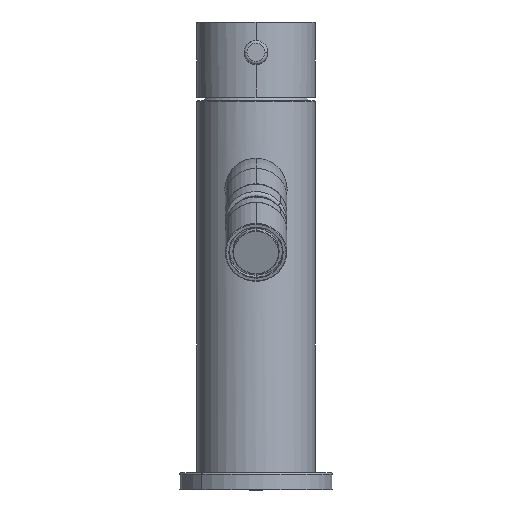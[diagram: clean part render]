
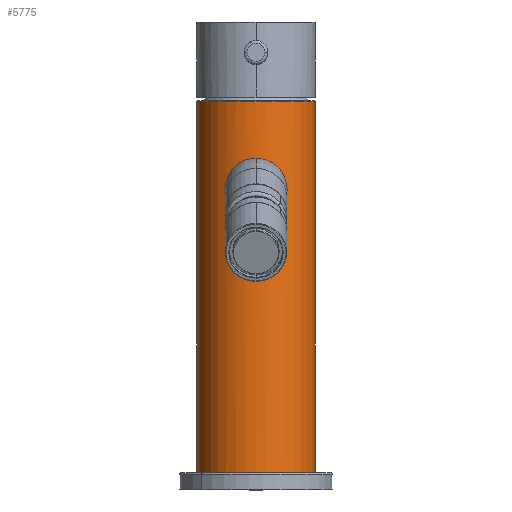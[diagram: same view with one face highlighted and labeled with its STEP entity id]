
A CAD part, top view. The second image highlights one B-rep face of the part: STEP entity #5775.
In plain terms, the highlighted cylindrical face has radius 17.35 mm (diameter 34.7 mm), a partial arc.
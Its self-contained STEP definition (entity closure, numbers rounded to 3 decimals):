
#925=CARTESIAN_POINT('',(0.,113.7,0.));
#926=DIRECTION('',(0.,-1.,0.));
#927=DIRECTION('',(1.,0.,0.));
#928=AXIS2_PLACEMENT_3D('',#925,#926,#927);
#930=CARTESIAN_POINT('',(0.,4.3,0.));
#931=DIRECTION('',(0.,-1.,0.));
#932=DIRECTION('',(1.,0.,0.));
#933=AXIS2_PLACEMENT_3D('',#930,#931,#932);
#935=CARTESIAN_POINT('',(0.,97.1,17.35));
#936=CARTESIAN_POINT('',(0.285,97.1,17.35));
#937=CARTESIAN_POINT('',(0.854,97.073,17.336));
#938=CARTESIAN_POINT('',(1.707,96.952,17.273));
#939=CARTESIAN_POINT('',(2.555,96.749,17.168));
#940=CARTESIAN_POINT('',(3.39,96.461,17.023));
#941=CARTESIAN_POINT('',(4.21,96.084,16.838));
#942=CARTESIAN_POINT('',(5.003,95.62,16.62));
#943=CARTESIAN_POINT('',(5.759,95.067,16.372));
#944=CARTESIAN_POINT('',(6.46,94.432,16.108));
#945=CARTESIAN_POINT('',(7.096,93.723,15.837));
#946=CARTESIAN_POINT('',(7.648,92.96,15.577));
#947=CARTESIAN_POINT('',(8.113,92.156,15.339));
#948=CARTESIAN_POINT('',(8.483,91.333,15.136));
#949=CARTESIAN_POINT('',(8.764,90.499,14.974));
#950=CARTESIAN_POINT('',(8.96,89.665,14.858));
#951=CARTESIAN_POINT('',(9.075,88.832,14.788));
#952=CARTESIAN_POINT('',(9.113,88.,14.764));
#953=CARTESIAN_POINT('',(9.075,87.169,14.788));
#954=CARTESIAN_POINT('',(8.96,86.335,14.858));
#955=CARTESIAN_POINT('',(8.764,85.501,14.974));
#956=CARTESIAN_POINT('',(8.483,84.667,15.136));
#957=CARTESIAN_POINT('',(8.113,83.844,15.339));
#958=CARTESIAN_POINT('',(7.648,83.04,15.577));
#959=CARTESIAN_POINT('',(7.096,82.277,15.837));
#960=CARTESIAN_POINT('',(6.46,81.568,16.108));
#961=CARTESIAN_POINT('',(5.759,80.933,16.372));
#962=CARTESIAN_POINT('',(5.003,80.38,16.62));
#963=CARTESIAN_POINT('',(4.21,79.916,16.838));
#964=CARTESIAN_POINT('',(3.39,79.539,17.023));
#965=CARTESIAN_POINT('',(2.555,79.251,17.168));
#966=CARTESIAN_POINT('',(1.707,79.048,17.273));
#967=CARTESIAN_POINT('',(0.854,78.927,17.336));
#968=CARTESIAN_POINT('',(0.285,78.9,17.35));
#969=CARTESIAN_POINT('',(0.,78.9,17.35));
#971=CARTESIAN_POINT('',(0.,78.9,17.35));
#972=CARTESIAN_POINT('',(-0.285,78.9,17.35));
#973=CARTESIAN_POINT('',(-0.854,78.927,17.336));
#974=CARTESIAN_POINT('',(-1.707,79.048,17.273));
#975=CARTESIAN_POINT('',(-2.555,79.251,17.168));
#976=CARTESIAN_POINT('',(-3.39,79.539,17.023));
#977=CARTESIAN_POINT('',(-4.21,79.916,16.838));
#978=CARTESIAN_POINT('',(-5.003,80.38,16.62));
#979=CARTESIAN_POINT('',(-5.759,80.933,16.372));
#980=CARTESIAN_POINT('',(-6.46,81.568,16.108));
#981=CARTESIAN_POINT('',(-7.096,82.277,15.837));
#982=CARTESIAN_POINT('',(-7.648,83.04,15.577));
#983=CARTESIAN_POINT('',(-8.113,83.844,15.339));
#984=CARTESIAN_POINT('',(-8.483,84.667,15.136));
#985=CARTESIAN_POINT('',(-8.764,85.501,14.974));
#986=CARTESIAN_POINT('',(-8.96,86.335,14.858));
#987=CARTESIAN_POINT('',(-9.075,87.168,14.788));
#988=CARTESIAN_POINT('',(-9.113,88.,14.764));
#989=CARTESIAN_POINT('',(-9.075,88.831,14.788));
#990=CARTESIAN_POINT('',(-8.96,89.665,14.858));
#991=CARTESIAN_POINT('',(-8.764,90.499,14.974));
#992=CARTESIAN_POINT('',(-8.483,91.333,15.136));
#993=CARTESIAN_POINT('',(-8.113,92.156,15.339));
#994=CARTESIAN_POINT('',(-7.648,92.96,15.577));
#995=CARTESIAN_POINT('',(-7.096,93.723,15.837));
#996=CARTESIAN_POINT('',(-6.46,94.432,16.108));
#997=CARTESIAN_POINT('',(-5.759,95.067,16.372));
#998=CARTESIAN_POINT('',(-5.003,95.62,16.62));
#999=CARTESIAN_POINT('',(-4.21,96.084,16.838));
#1000=CARTESIAN_POINT('',(-3.39,96.461,17.023));
#1001=CARTESIAN_POINT('',(-2.555,96.749,17.168));
#1002=CARTESIAN_POINT('',(-1.707,96.952,17.273));
#1003=CARTESIAN_POINT('',(-0.854,97.073,
17.336));
#1004=CARTESIAN_POINT('',(-0.285,97.1,17.35));
#1005=CARTESIAN_POINT('',(0.,97.1,17.35));
#1022=DIRECTION('',(0.,-1.,0.));
#1023=VECTOR('',#1022,109.4);
#1024=CARTESIAN_POINT('',(-17.35,113.7,0.));
#1025=LINE('',#1024,#1023);
#1031=DIRECTION('',(0.,-1.,0.));
#1032=VECTOR('',#1031,109.4);
#1033=CARTESIAN_POINT('',(17.35,113.7,0.));
#1034=LINE('',#1033,#1032);
#3842=VERTEX_POINT('',#935);
#3843=VERTEX_POINT('',#969);
#3860=CARTESIAN_POINT('',(-17.35,113.7,0.));
#3861=CARTESIAN_POINT('',(17.35,113.7,0.));
#3862=VERTEX_POINT('',#3860);
#3863=VERTEX_POINT('',#3861);
#3868=CARTESIAN_POINT('',(-17.35,4.3,0.));
#3869=CARTESIAN_POINT('',(17.35,4.3,0.));
#3870=VERTEX_POINT('',#3868);
#3871=VERTEX_POINT('',#3869);
#5755=CARTESIAN_POINT('',(0.,-1.5,0.));
#5756=DIRECTION('',(0.,1.,0.));
#5757=DIRECTION('',(1.,0.,0.));
#5758=AXIS2_PLACEMENT_3D('',#5755,#5756,#5757);
#5759=CYLINDRICAL_SURFACE('',#5758,17.35);
#5761=ORIENTED_EDGE('',*,*,#5760,.F.);
#5763=ORIENTED_EDGE('',*,*,#5762,.T.);
#5765=ORIENTED_EDGE('',*,*,#5764,.T.);
#5767=ORIENTED_EDGE('',*,*,#5766,.F.);
#5768=EDGE_LOOP('',(#5761,#5763,#5765,#5767));
#5769=FACE_OUTER_BOUND('',#5768,.F.);
#5771=ORIENTED_EDGE('',*,*,#5770,.F.);
#5772=ORIENTED_EDGE('',*,*,#5745,.F.);
#5773=EDGE_LOOP('',(#5771,#5772));
#5774=FACE_BOUND('',#5773,.F.);
#5775=ADVANCED_FACE('',(#5769,#5774),#5759,.T.);
#929=CIRCLE('',#928,17.35);
#934=CIRCLE('',#933,17.35);
#970=B_SPLINE_CURVE_WITH_KNOTS('',3,(#935,#936,#937,#938,#939,#940,#941,#942,
#943,#944,#945,#946,#947,#948,#949,#950,#951,#952,#953,#954,#955,#956,#957,#958,
#959,#960,#961,#962,#963,#964,#965,#966,#967,#968,#969),.UNSPECIFIED.,.F.,.F.,
(4,1,1,1,1,1,1,1,1,1,1,1,1,1,1,1,1,1,1,1,1,1,1,1,1,1,1,1,1,1,1,1,4),(0.,
0.031,0.063,0.094,0.125,0.156,0.188,0.219,0.25,0.281,
0.313,0.344,0.375,0.406,0.438,0.469,0.5,0.531,
0.563,0.594,0.625,0.656,0.688,0.719,0.75,0.781,
0.813,0.844,0.875,0.906,0.938,0.969,1.),.UNSPECIFIED.);
#1006=B_SPLINE_CURVE_WITH_KNOTS('',3,(#971,#972,#973,#974,#975,#976,#977,#978,
#979,#980,#981,#982,#983,#984,#985,#986,#987,#988,#989,#990,#991,#992,#993,#994,
#995,#996,#997,#998,#999,#1000,#1001,#1002,#1003,#1004,#1005),.UNSPECIFIED.,.F.,
.F.,(4,1,1,1,1,1,1,1,1,1,1,1,1,1,1,1,1,1,1,1,1,1,1,1,1,1,1,1,1,1,1,1,4),(0.,
0.031,0.063,0.094,0.125,0.156,0.188,0.219,0.25,0.281,
0.313,0.344,0.375,0.406,0.438,0.469,0.5,0.531,
0.563,0.594,0.625,0.656,0.688,0.719,0.75,0.781,
0.813,0.844,0.875,0.906,0.938,0.969,1.),.UNSPECIFIED.);
#5745=EDGE_CURVE('',#3843,#3842,#1006,.T.);
#5760=EDGE_CURVE('',#3863,#3862,#929,.T.);
#5762=EDGE_CURVE('',#3863,#3871,#1034,.T.);
#5764=EDGE_CURVE('',#3871,#3870,#934,.T.);
#5766=EDGE_CURVE('',#3862,#3870,#1025,.T.);
#5770=EDGE_CURVE('',#3842,#3843,#970,.T.);
